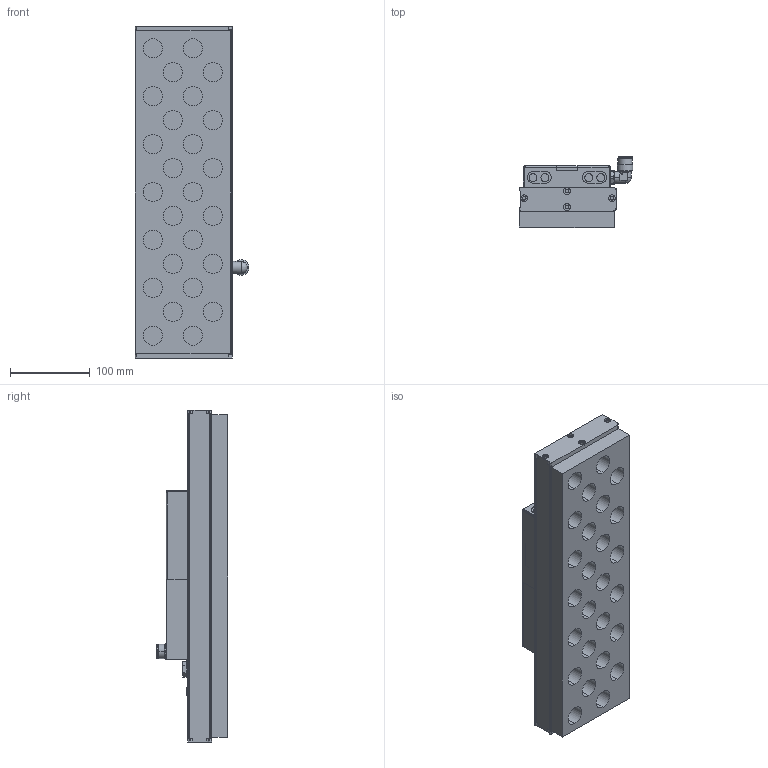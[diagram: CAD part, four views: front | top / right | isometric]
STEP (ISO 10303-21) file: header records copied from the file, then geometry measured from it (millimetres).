
FILE_DESCRIPTION (( 'STEP AP214' ), '1' );
FILE_NAME ('310 400 013.STEP', '2018-01-10T08:12:24', ( '' ), ( '' ), 'SwSTEP 2.0', 'SolidWorks 2017', '' );
FILE_SCHEMA (( 'AUTOMOTIVE_DESIGN' ));
Length unit declared in the file: millimetre
Products named in the file (1): 310 400 013
Bounding box: 142.75 x 89 x 416 mm (x, y, z)
Volume: 2842850.9 mm3; surface area: 221281 mm2
Topology: 1 solids, 2 shells, 522 faces, 1207 edges, 756 vertices
Faces by surface type: cylinder 226, plane 212, torus 39, cone 36, bspline 6, sphere 3
Entity records: 20397 total; most frequent: CARTESIAN_POINT 3098, DIRECTION 2745, ORIENTED_EDGE 2404, EDGE_CURVE 1202, AXIS2_PLACEMENT_3D 1094, VERTEX_POINT 753, EDGE_LOOP 591, CIRCLE 577
